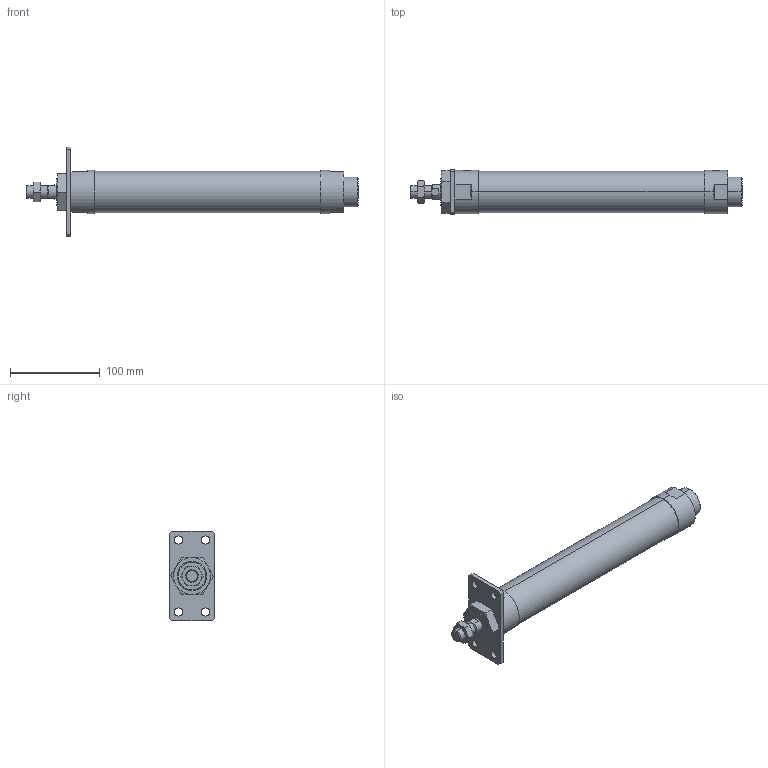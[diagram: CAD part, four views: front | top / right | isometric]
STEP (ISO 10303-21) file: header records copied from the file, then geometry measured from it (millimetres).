
FILE_DESCRIPTION (( 'STEP AP203' ), '1' );
FILE_NAME ('J#2-40-200-A.STEP', '2016-03-08T08:03:45', ( '' ), ( '' ), 'SwSTEP 2.0', 'SolidWorks 2014', '' );
FILE_SCHEMA (( 'CONFIG_CONTROL_DESIGN' ));
Length unit declared in the file: millimetre
Products named in the file (5): J#2-40-A; J#2-40-200; J#2-40-200-A
Assembly tree (4 placements, depth 2):
  J#2-40-200-A
    J#2-40-200
    (unnamed)
    (unnamed)
    J#2-40-A
Bounding box: 369 x 50 x 100 mm (x, y, z)
Volume: 567649.5 mm3; surface area: 69393.4 mm2
Topology: 4 solids, 4 shells, 114 faces, 264 edges, 161 vertices
Faces by surface type: plane 43, cylinder 32, torus 24, cone 15
Entity records: 4198 total; most frequent: CARTESIAN_POINT 1133, DIRECTION 537, ORIENTED_EDGE 520, EDGE_CURVE 260, AXIS2_PLACEMENT_3D 219, VERTEX_POINT 161, EDGE_LOOP 135, ADVANCED_FACE 114
